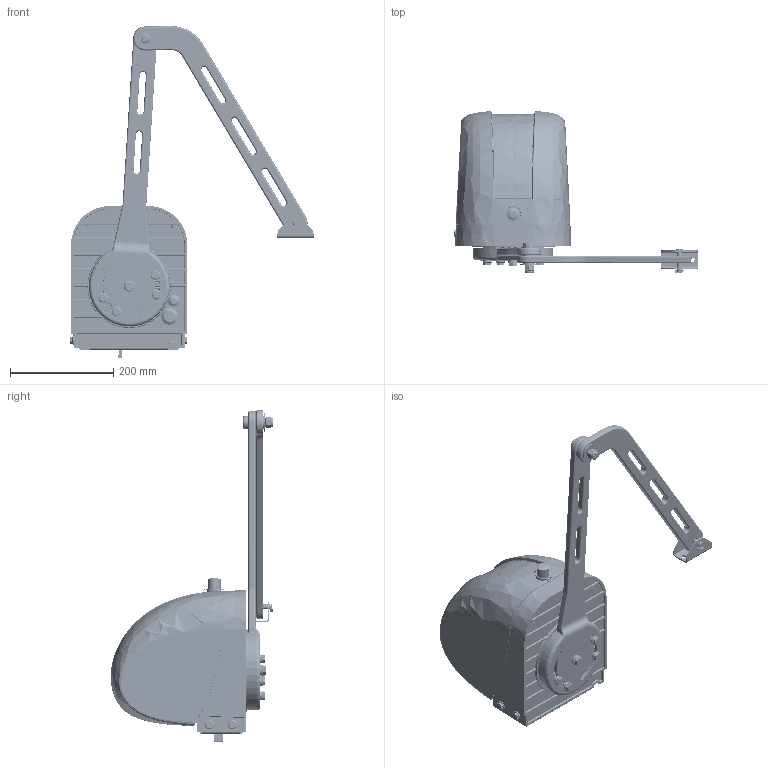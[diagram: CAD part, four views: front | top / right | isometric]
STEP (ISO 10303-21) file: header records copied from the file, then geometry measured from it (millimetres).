
FILE_DESCRIPTION (( 'STEP AP214' ), '1' );
FILE_NAME ('90171_twist_AM_2017-01-23.STEP', '2017-01-23T07:13:51', ( 'Admin' ), ( '' ), 'SwSTEP 2.0', 'SolidWorks 2016', '' );
FILE_SCHEMA (( 'AUTOMOTIVE_DESIGN' ));
Length unit declared in the file: millimetre
Products named in the file (79): 14723V000_Burg H2A211_90 SA ( R )_E_05; 90171_twist_AM_2017-01-23; 50744_M8x20_DIN158_W158100VZ820; 10126V000_Anschlusskabel_für_Bosch_AHC-P_Getriebemotor; 90055_Ben-Bolzen9,9x45x39; 90047_Niederhalter_Anschlag; 50746_Sicherungsscheibe_RIPLOCK_53065STZL8; Ferritkern_Würth_7427011; 40007_Sicherung KL10 f黵 8er Nut; 50742_Scheibe_DIN9021VZ13; 3940-2041_CrimpHousing; 80115_Schraube_M3x16_DIN7500TXCVZ; 14605V000_Mutter_Stop_M12_DIN 985 -6,8; 50747_Sicherungsscheibe_RIPLOCK_53065STZL10; Litze_250_gr黱; 80105_M10x35_DIN158_W158100VZ1035; 50741_Passschraube_M12_PSS12_912H830; Litze_250_weiss; 40028_Kombi_Blechschraube-6,5x19; 12294V000_Torflügelbeschlag_twist_200; 10282V000_Slaveplatine; Litze_250_rot; BG_Platine_Deckel; 10138V000_igus_GFM-1618-12; 10129V000_EATON_M20_Membrantuelle_207602; Litze_250_schwarz; Sicherungshalter_Platine; 90058_Torarm_L389mm_90058 Bearbeitung L=389mm; 929939-1; 90008_Gehäuse_Housing_EPROM_Issue_3; 50751_Sechskantkopfschraube_7500D_VZ816; 968052-1; Funkmodul; 90052_Sperrelement; 90780; 90016_Zugentlastungsblech; 968183-1; 11540_b1_20160119; 90057_Antriebsarm_L480mm_90057 Bearbeitung 480mm; Zentriernadel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
Assembly tree (115 placements, depth 4):
  90171_twist_AM_2017-01-23
    90045_Grundgehäuse
    90051_Haube
    90046_Motorflansch_Bearbeitet
    90050_Exzenter_Notentriegelung
    90049_Notlösehebel
    13908_Schraube_Taptite_M6x20_DIN7500-C_M 6 x 20  x11
    10126V000_Anschlusskabel_für_Bosch_AHC-P_Getriebemotor
      968182-1
      968183-1
      968052-1  x2
      929939-1  x2
      Litze_250_schwarz
      Litze_250_rot
      Litze_250_weiss
      Litze_250_gr黱
      3940-2041_CrimpHousing
      Ferritkern_Würth_7427011
    10135V000_Bosch-AH_Motor_0_390_203_001
    10128V000_igus_JFM-3539-16  x2
    10525V000_eagle_200VA
    80147_Schraube_Torx_M4x8_A2K_Linsenkopf  x2
    90019_Trafo_Halteblech
    90048_Niederhalter_Mikroschalter
    14026V001_Microschalter_mit_Stecker_Index_4
      Switech_KW3A-01T6B-C200-08_Switech
    90057_Antriebsarm_L480mm_90057 Bearbeitung 480mm
    90052_Sperrelement  x2
    90058_Torarm_L389mm_90058 Bearbeitung L=389mm
    10138V000_igus_GFM-1618-12
    12294V000_Torflügelbeschlag_twist_200
    50741_Passschraube_M12_PSS12_912H830
    14605V000_Mutter_Stop_M12_DIN 985 -6,8
    50742_Scheibe_DIN9021VZ13  x2
    90047_Niederhalter_Anschlag
    14723V000_Hebelschloss_H2A211_90_SA(R)_E_mit_Hebel_Schloss_Hebel_V001
      14723_1_Schloss_H2A211_90起SA(R)_E_f. Baugruppe
        14723V000_Burg H2A211_90 SA ( R )_E_05
        14723_1-1_Schlüssel_05
        14723_1-2_Klammer_Schloss_05
      14723_2_Riegel_400E9544
    90018_Wandbeschlag
    10127V000_EATON_M32_Membrantuelle_207602
    90016_Zugentlastungsblech
    50751_Sechskantkopfschraube_7500D_VZ816  x4
    10129V000_EATON_M20_Membrantuelle_207602
    10282V000_Slaveplatine
    50747_Sicherungsscheibe_RIPLOCK_53065STZL10
    50746_Sicherungsscheibe_RIPLOCK_53065STZL8  x4
    50744_M8x20_DIN158_W158100VZ820  x4
    50748_M10x20_DIN158_W158100VZ1020
    14725V000_Druckfeder_1,4x15x39
    50734_Schraube_f黵_Kunststoffe_Delta_6x25
    90054_Zentralwelle
    90053_Zahnrad_Z51_m2
    90060_Akku_Ablage
    90061_Steuerungsgehäuse_Unterteil
    90062_Abdeckung_Steuerung
    BG_Platine_Deckel
      11540_b1_20160119
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Bounding box: 470.16 x 314.23 x 641.97 mm (x, y, z)
Volume: 4038300.8 mm3; surface area: 1610945.3 mm2
Topology: 109 solids, 743 shells, 16876 faces, 45457 edges, 29408 vertices
Faces by surface type: plane 8155, cylinder 5015, bspline 2342, cone 703, torus 462, sphere 199
Entity records: 690943 total; most frequent: CARTESIAN_POINT 280075, ORIENTED_EDGE 74899, DIRECTION 64969, EDGE_CURVE 39290, VERTEX_POINT 25677, VECTOR 21951, LINE 21951, AXIS2_PLACEMENT_3D 21509
